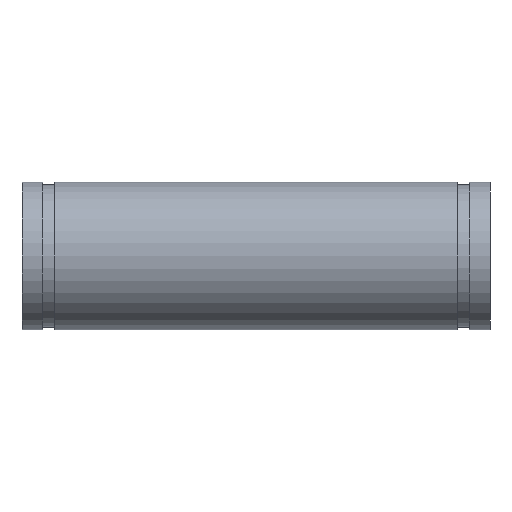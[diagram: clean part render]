
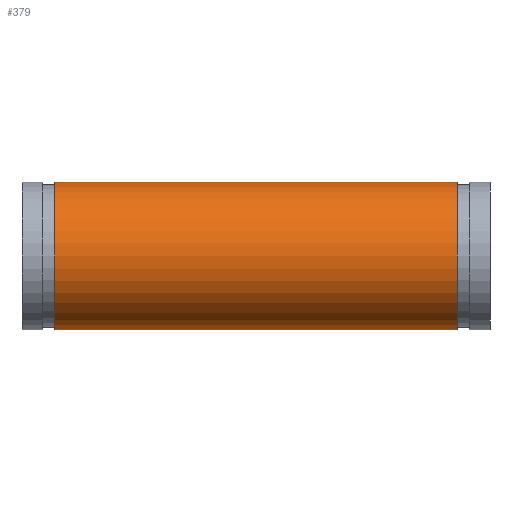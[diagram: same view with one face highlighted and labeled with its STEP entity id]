
A CAD part, left-side view. The second image highlights one B-rep face of the part: STEP entity #379.
In plain terms, the highlighted cylindrical face has radius 57.15 mm (diameter 114.3 mm), a full revolution.
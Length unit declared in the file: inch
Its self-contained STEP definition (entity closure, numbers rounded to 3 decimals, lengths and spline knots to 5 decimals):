
#45=ELLIPSE('',#439,5.87953,2.25);
#46=ELLIPSE('',#440,5.87953,2.25);
#47=ELLIPSE('',#441,2.43538,2.25);
#57=LINE('',#676,#68);
#68=VECTOR('',#544,2.25);
#79=CYLINDRICAL_SURFACE('',#438,2.25);
#90=FACE_BOUND('',#131,.T.);
#105=FACE_OUTER_BOUND('',#130,.T.);
#130=EDGE_LOOP('',(#292,#293,#294,#295));
#131=EDGE_LOOP('',(#296,#297,#298));
#154=CIRCLE('',#426,2.25);
#155=CIRCLE('',#428,2.25);
#181=VERTEX_POINT('',#653);
#182=VERTEX_POINT('',#656);
#189=VERTEX_POINT('',#677);
#190=VERTEX_POINT('',#678);
#191=VERTEX_POINT('',#680);
#218=EDGE_CURVE('',#181,#181,#154,.T.);
#219=EDGE_CURVE('',#182,#182,#155,.T.);
#228=EDGE_CURVE('',#181,#182,#57,.T.);
#229=EDGE_CURVE('',#189,#190,#45,.T.);
#230=EDGE_CURVE('',#190,#191,#46,.T.);
#231=EDGE_CURVE('',#191,#189,#47,.T.);
#292=ORIENTED_EDGE('',*,*,#218,.T.);
#293=ORIENTED_EDGE('',*,*,#228,.T.);
#294=ORIENTED_EDGE('',*,*,#219,.T.);
#295=ORIENTED_EDGE('',*,*,#228,.F.);
#296=ORIENTED_EDGE('',*,*,#229,.T.);
#297=ORIENTED_EDGE('',*,*,#230,.T.);
#298=ORIENTED_EDGE('',*,*,#231,.T.);
#379=ADVANCED_FACE('',(#105,#90),#79,.T.);
#426=AXIS2_PLACEMENT_3D('',#654,#516,#517);
#428=AXIS2_PLACEMENT_3D('',#657,#520,#521);
#438=AXIS2_PLACEMENT_3D('',#675,#542,#543);
#439=AXIS2_PLACEMENT_3D('',#679,#545,#546);
#440=AXIS2_PLACEMENT_3D('',#681,#547,#548);
#441=AXIS2_PLACEMENT_3D('',#682,#549,#550);
#516=DIRECTION('center_axis',(0.,1.,0.));
#517=DIRECTION('ref_axis',(1.,0.,0.));
#520=DIRECTION('center_axis',(0.,-1.,0.));
#521=DIRECTION('ref_axis',(1.,0.,0.));
#542=DIRECTION('center_axis',(0.,-1.,0.));
#543=DIRECTION('ref_axis',(1.,0.,0.));
#544=DIRECTION('',(0.,1.,0.));
#545=DIRECTION('center_axis',(-0.924,0.383,0.));
#546=DIRECTION('ref_axis',(-0.383,-0.924,0.));
#547=DIRECTION('center_axis',(-0.924,0.383,0.));
#548=DIRECTION('ref_axis',(-0.383,-0.924,0.));
#549=DIRECTION('center_axis',(-0.383,-0.924,0.));
#550=DIRECTION('ref_axis',(0.924,-0.383,0.));
#653=CARTESIAN_POINT('',(-2.25,-2.75,0.));
#654=CARTESIAN_POINT('Origin',(0.,-2.75,0.));
#656=CARTESIAN_POINT('',(-2.25,9.5,0.));
#657=CARTESIAN_POINT('Origin',(0.,9.5,0.));
#675=CARTESIAN_POINT('Origin',(0.,10.5,0.));
#676=CARTESIAN_POINT('',(-2.25,10.5,0.));
#677=CARTESIAN_POINT('',(0.,0.,2.25));
#678=CARTESIAN_POINT('',(2.25,5.43198,0.));
#679=CARTESIAN_POINT('Origin',(0.,0.,
0.));
#680=CARTESIAN_POINT('',(0.,0.,-2.25));
#681=CARTESIAN_POINT('Origin',(0.,0.,
0.));
#682=CARTESIAN_POINT('Origin',(0.,0.,0.));
